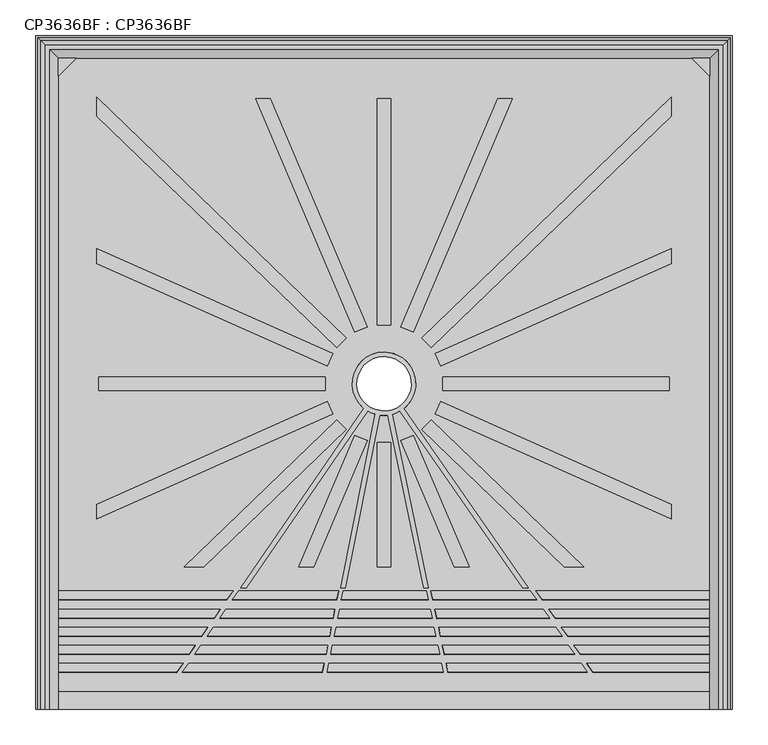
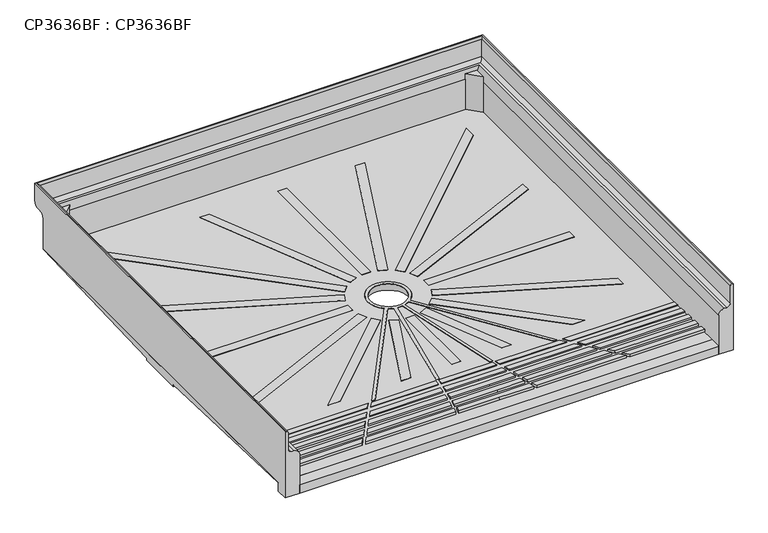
"""IFC4 building model written with IfcOpenShell, lengths in millimetres: flow terminal geometry, CP3636BF : CP3636BF."""

from ifc_helpers import new_model, si_unit, point, frame, frame_2d, origin, origin_with_axes, place, context, project, spatial, polyline, circle_curve, ellipse_curve, trimmed, segment, composite_curve, outline, extrude, source, transform, mapped, element, save
from ifc_brep_helpers import plane_surface, cylinder_surface, revolved_surface, advanced_brep


def cp3636bf_cp3636bf_12177f3f(model_context):
    return source(origin(), model_context, "Body", "SolidModel", [
        extrude(outline(polyline([(9.525, 66.8448939), (-9.525, 66.8448939), (-9.525, 384.3448939), (9.525, 384.3448939), (9.525, 66.8448939)])), frame((0.0, 0.0, 19.05), z_axis=(0.0, 0.0, 1.0), x_axis=(1.0, 0.0, 0.0)), (0.0, 0.0, 1.0), 0.5291667),
        extrude(outline(polyline([(41.0890462, 56.5473498), (23.5534288, 63.9907778), (159.5356833, 384.3448939), (180.2308485, 384.3448939), (41.0890462, 56.5473498)])), frame((0.0, 0.0, 19.05), z_axis=(0.0, 0.0, 1.0), x_axis=(1.0, 0.0, 0.0)), (0.0, 0.0, 1.0), 0.5291667),
        extrude(outline(polyline([(66.131097, 34.7212892), (52.9007702, 48.427527), (403.225, 386.587721), (403.225, 360.1105429), (66.131097, 34.7212892)])), frame((0.0, 0.0, 19.05), z_axis=(0.0, 0.0, 1.0), x_axis=(1.0, 0.0, 0.0)), (0.0, 0.0, 1.0), 0.5291667),
        extrude(outline(polyline([(79.4425498, 9.0686915), (71.6942168, 26.4717324), (403.225, 174.0787472), (403.225, 153.2259261), (79.4425498, 9.0686915)])), frame((0.0, 0.0, 19.05), z_axis=(0.0, 0.0, 1.0), x_axis=(1.0, 0.0, 0.0)), (0.0, 0.0, 1.0), 0.5291667),
        extrude(outline(polyline([(82.714366, -25.4478848), (82.725394, -6.3978879), (400.2253408, -6.5816879), (400.2143128, -25.6316847), (82.714366, -25.4478848)])), frame((0.0, 0.0, 19.05), z_axis=(0.0, 0.0, 1.0), x_axis=(1.0, 0.0, 0.0)), (0.0, 0.0, 1.0), 0.5291667),
        extrude(outline(polyline([(-41.0890462, 56.5473498), (-180.2308485, 384.3448939), (-159.5356833, 384.3448939), (-23.5534288, 63.9907778), (-41.0890462, 56.5473498)])), frame((0.0, 0.0, 19.05), z_axis=(0.0, 0.0, 1.0), x_axis=(1.0, 0.0, 0.0)), (0.0, 0.0, 1.0), 0.5291667),
        extrude(outline(polyline([(-66.131097, 34.7212892), (-403.225, 360.1105429), (-403.225, 386.587721), (-52.9007702, 48.427527), (-66.131097, 34.7212892)])), frame((0.0, 0.0, 19.05), z_axis=(0.0, 0.0, 1.0), x_axis=(1.0, 0.0, 0.0)), (0.0, 0.0, 1.0), 0.5291667),
        extrude(outline(polyline([(-79.4425498, 9.0686915), (-403.225, 153.2259261), (-403.225, 174.0787472), (-71.6942168, 26.4717324), (-79.4425498, 9.0686915)])), frame((0.0, 0.0, 19.05), z_axis=(0.0, 0.0, 1.0), x_axis=(1.0, 0.0, 0.0)), (0.0, 0.0, 1.0), 0.5291667),
        extrude(outline(polyline([(-82.714366, -25.4478848), (-400.2143128, -25.6316847), (-400.2253408, -6.5816879), (-82.725394, -6.3978879), (-82.714366, -25.4478848)])), frame((0.0, 0.0, 19.05), z_axis=(0.0, 0.0, 1.0), x_axis=(1.0, 0.0, 0.0)), (0.0, 0.0, 1.0), 0.5291667),
        extrude(outline(polyline([(9.525, -98.5948939), (9.525, -273.2198939), (-9.525, -273.2198939), (-9.525, -98.5948939), (9.525, -98.5948939)])), frame((0.0, 0.0, 19.05), z_axis=(0.0, 0.0, 1.0), x_axis=(1.0, 0.0, 0.0)), (0.0, 0.0, 1.0), 0.5291667),
        extrude(outline(polyline([(41.0890462, -88.2973498), (119.5840091, -273.2198939), (98.8888439, -273.2198939), (23.5534288, -95.7407778), (41.0890462, -88.2973498)])), frame((0.0, 0.0, 19.05), z_axis=(0.0, 0.0, 1.0), x_axis=(1.0, 0.0, 0.0)), (0.0, 0.0, 1.0), 0.5291667),
        extrude(outline(polyline([(66.131097, -66.4712892), (280.3167018, -273.2198939), (252.8871071, -273.2198939), (52.9007702, -80.177527), (66.131097, -66.4712892)])), frame((0.0, 0.0, 19.05), z_axis=(0.0, 0.0, 1.0), x_axis=(1.0, 0.0, 0.0)), (0.0, 0.0, 1.0), 0.5291667),
        extrude(outline(polyline([(79.4425498, -40.8186915), (403.225, -184.9759261), (403.225, -205.8287472), (71.6942168, -58.2217324), (79.4425498, -40.8186915)])), frame((0.0, 0.0, 19.05), z_axis=(0.0, 0.0, 1.0), x_axis=(1.0, 0.0, 0.0)), (0.0, 0.0, 1.0), 0.5291667),
        extrude(outline(polyline([(-41.0890462, -88.2973498), (-23.5534288, -95.7407778), (-98.8888439, -273.2198939), (-119.5840091, -273.2198939), (-41.0890462, -88.2973498)])), frame((0.0, 0.0, 19.05), z_axis=(0.0, 0.0, 1.0), x_axis=(1.0, 0.0, 0.0)), (0.0, 0.0, 1.0), 0.5291667),
        extrude(outline(polyline([(-66.131097, -66.4712892), (-52.9007702, -80.177527), (-252.8871071, -273.2198939), (-280.3167018, -273.2198939), (-66.131097, -66.4712892)])), frame((0.0, 0.0, 19.05), z_axis=(0.0, 0.0, 1.0), x_axis=(1.0, 0.0, 0.0)), (0.0, 0.0, 1.0), 0.5291667),
        extrude(outline(polyline([(-79.4425498, -40.8186915), (-71.6942168, -58.2217324), (-403.225, -205.8287472), (-403.225, -184.9759261), (-79.4425498, -40.8186915)])), frame((0.0, 0.0, 19.05), z_axis=(0.0, 0.0, 1.0), x_axis=(1.0, 0.0, 0.0)), (0.0, 0.0, 1.0), 0.5291667),
        extrude(outline(composite_curve([segment(polyline([(-201.0283949, -302.1907183), (-28.1469088, -50.27782)]), True, "CONTINUOUS"), segment(trimmed(circle_curve(frame_2d((0.0, -15.875)), 44.45), [point((-28.1469088, -50.27782))], [point((27.4553796, -50.8321828))], False, "CARTESIAN"), True, "CONTINUOUS"), segment(polyline([(27.4553796, -50.8321828), (202.2323668, -302.1907183), (194.5273745, -302.1907183), (22.2144506, -54.375918)]), True, "CONTINUOUS"), segment(trimmed(circle_curve(frame_2d((0.0, -15.875)), 44.45), [point((22.2144506, -54.375918))], [point((11.6048238, -58.7833974))], False, "CARTESIAN"), True, "CONTINUOUS"), segment(polyline([(11.6048238, -58.7833974), (62.4545453, -302.1907183), (55.9919523, -302.1907183), (5.3956174, -59.9963079)]), True, "CONTINUOUS"), segment(trimmed(circle_curve(frame_2d((0.0, -15.875)), 44.45), [point((5.3956174, -59.9963079))], [point((-6.0833499, -59.9067539))], False, "CARTESIAN"), True, "CONTINUOUS"), segment(polyline([(-6.0833499, -59.9067539), (-54.0575775, -302.1907183), (-60.5064236, -302.1907183), (-12.2728764, -58.5971138)]), True, "CONTINUOUS"), segment(trimmed(circle_curve(frame_2d((0.0, -15.875)), 44.45), [point((-12.2728764, -58.5971138))], [point((-22.9776777, -53.925346))], False, "CARTESIAN"), True, "CONTINUOUS"), segment(polyline([(-22.9776777, -53.925346), (-193.3559584, -302.1907183), (-201.0283949, -302.1907183)]), True, "CONTINUOUS")], self_intersect=False), holes=[composite_curve([segment(trimmed(circle_curve(frame_2d((0.0, -15.875)), 38.1), [point((-24.5388687, -45.0203928))], [point((23.8230803, -45.6083289))], True, "CARTESIAN"), True, "CONTINUOUS"), segment(trimmed(circle_curve(frame_2d((0.0, -15.875)), 38.1), [point((23.8230803, -45.6083289))], [point((-24.5388687, -45.0203928))], True, "CARTESIAN"), True, "CONTINUOUS")], self_intersect=False)]), frame((0.0, 0.0, 19.05), z_axis=(0.0, 0.0, 1.0), x_axis=(1.0, 0.0, 0.0)), (0.0, 0.0, 1.0), 0.5291667),
        advanced_brep(
        [(482.6, -447.675, 19.05), (482.6, -50.8, 4.9609375), (482.6, -50.8, 0.0), (482.6, 50.8, 0.0), (482.6, 50.8, 5.000926), (482.6, 442.11875, 18.6660779), (482.6, 442.11875, 19.05), (-488.95, -50.8, 4.9609375), (-488.95, -447.675, 19.05), (-488.95, 442.11875, 19.05), (-488.95, 442.11875, 18.6660779), (-488.95, 50.8, 5.000926), (-488.95, 50.8, 0.0), (-488.95, -50.8, 0.0), (44.45, -15.875, 19.05), (-44.45, -15.875, 19.05), (27.4963066, -50.8, 0.0), (44.45, -15.875, 0.0), (-44.45, -15.875, 0.0), (-27.4963066, -50.8, 0.0), (-27.4963066, -50.8, 4.9609375), (27.4963066, -50.8, 4.9609375)],
        [
            (0, 1),
            (1, 2),
            (2, 3),
            (3, 4),
            (4, 5),
            (5, 6),
            (6, 0),
            (7, 8),
            (8, 9),
            (9, 10),
            (10, 11),
            (11, 12),
            (12, 13),
            (13, 7),
            (8, 0),
            (6, 9),
            (14, 15, circle_curve(frame((0.0, -15.875, 19.05), z_axis=(0.0, 0.0, -1.0), x_axis=(1.0, 0.0, 0.0)), 44.45)),
            (15, 14, circle_curve(frame((0.0, -15.875, 19.05), z_axis=(0.0, 0.0, -1.0), x_axis=(1.0, 0.0, 0.0)), 44.45)),
            (2, 16),
            (16, 17, circle_curve(frame((0.0, -15.875, 0.0), z_axis=(0.0, 0.0, 1.0), x_axis=(1.0, 0.0, 0.0)), 44.45)),
            (17, 18, circle_curve(frame((0.0, -15.875, 0.0), z_axis=(0.0, 0.0, 1.0), x_axis=(1.0, 0.0, 0.0)), 44.45)),
            (18, 19, circle_curve(frame((0.0, -15.875, 0.0), z_axis=(0.0, 0.0, 1.0), x_axis=(1.0, 0.0, 0.0)), 44.45)),
            (19, 13),
            (12, 3),
            (7, 20),
            (20, 21, ellipse_curve(frame((0.0, -15.875, 3.7211), z_axis=(0.0, 0.0354776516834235, 0.9993704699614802), x_axis=(0.0, -0.9993704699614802, 0.03547765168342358)), 44.4780002, 44.45)),
            (21, 1),
            (21, 16),
            (19, 20),
            (11, 4),
            (10, 5),
            (18, 15),
            (14, 17),
        ],
        [
            plane_surface(frame((482.6, -447.675, 19.05), z_axis=(1.0, 0.0, 0.0), x_axis=(0.0, -1.0, 0.0))),
            plane_surface(frame((-488.95, -447.675, 19.05), z_axis=(-1.0, 0.0, 0.0), x_axis=(0.0, 1.0, 0.0))),
            plane_surface(frame((482.6, 473.075, 19.05), z_axis=(0.0, 0.0, 1.0), x_axis=(-1.0, 0.0, 0.0))),
            plane_surface(frame((482.6, -447.675, 0.0), z_axis=(0.0, 0.0, -1.0), x_axis=(-1.0, 0.0, 0.0))),
            plane_surface(frame((-488.95, -447.675, 19.05), z_axis=(0.0, -0.0354776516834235, -0.9993704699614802), x_axis=(1.0, 0.0, 0.0))),
            plane_surface(frame((-488.95, -50.8, 4.9609375), z_axis=(0.0, -1.0, 0.0), x_axis=(1.0, 0.0, 0.0))),
            plane_surface(frame((-488.95, 50.8, 0.0), z_axis=(0.0, 1.0, 0.0), x_axis=(1.0, 0.0, 0.0))),
            plane_surface(frame((-488.95, 50.8, 5.000926), z_axis=(0.0, 0.034899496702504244, -0.9993908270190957), x_axis=(1.0, 0.0, 0.0))),
            plane_surface(frame((-488.95, 442.11875, 18.6660779), z_axis=(0.0, 1.0, 0.0), x_axis=(1.0, 0.0, 0.0))),
            revolved_surface(polyline([(44.45, -15.875, 19.049999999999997), (44.45, -15.875, 0.0)]), (0.0, -15.875, -6.35), (0.0, 0.0, 1.0)),
        ],
        [
            (0, [[1, 2, 3, 4, 5, 6, 7]]),
            (1, [[8, 9, 10, 11, 12, 13, 14]]),
            (2, [[15, -7, 16, -9], [17, 18]]),
            (3, [[-3, 19, 20, 21, 22, 23, -13, 24]]),
            (4, [[-1, -15, -8, 25, 26, 27]]),
            (5, [[-2, -27, 28, -19]]),
            (5, [[-14, -23, 29, -25]]),
            (6, [[30, -4, -24, -12]]),
            (7, [[-30, -11, 31, -5]]),
            (8, [[-31, -10, -16, -6]]),
            (9, [[32, -17, 33, -20, -28, -26, -29, -22]]),
            (9, [[-32, -21, -33, -18]]),
        ],
    ),
        extrude(outline(polyline([(457.2, -473.075), (-457.2, -473.075), (-457.2, -447.675), (457.2, -447.675), (457.2, -473.075)])), origin_with_axes(), (0.0, 0.0, 1.0), 19.05),
        extrude(outline(polyline([(522.4674598, -165.9182294), (512.000945, -173.1114251), (393.0287375, 0.0), (408.4388335, 0.0), (522.4674598, -165.9182294)])), frame((-24.5388687, -34.9178332, -0.0634178), z_axis=(0.0, 0.05346929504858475, 0.9985694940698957), x_axis=(-0.5663933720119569, -0.8229561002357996, 0.04406591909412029)), (0.0, 0.0, 1.0), 5.5944671),
        extrude(outline(polyline([(-5.9091544, 580.4776466), (4.5573604, 587.6708423), (117.4941956, 423.3412321), (112.0364867, 408.8599348), (-5.9091544, 580.4776466)])), frame((-24.5388687, -34.9178332, -0.0634178), z_axis=(0.0, 0.05346929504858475, 0.9985694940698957), x_axis=(-0.5663933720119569, -0.8229561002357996, 0.04406591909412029)), (0.0, 0.0, 1.0), 5.5944671),
        extrude(outline(polyline([(346.0436671, 0.0), (480.0887534, -195.0433333), (469.6222385, -202.2365291), (330.633571, 0.0), (346.0436671, 0.0)])), frame((-24.5388687, -34.9178332, -0.0634178), z_axis=(0.0, 0.05346929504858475, 0.9985694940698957), x_axis=(-0.5663933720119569, -0.8229561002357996, 0.04406591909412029)), (0.0, 0.0, 1.0), 5.5944671),
        extrude(outline(polyline([(89.9383336, 350.2254557), (-48.2878609, 551.3525425), (-37.821346, 558.5457384), (95.3960426, 364.706753), (89.9383336, 350.2254557)])), frame((-24.5388687, -34.9178332, -0.0634178), z_axis=(0.0, 0.05346929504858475, 0.9985694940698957), x_axis=(-0.5663933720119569, -0.8229561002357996, 0.04406591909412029)), (0.0, 0.0, 1.0), 5.5944671),
        extrude(outline(polyline([(377.6186414, -1e-07), (501.5344301, -180.304621), (491.0679152, -187.4978168), (362.2085453, -1e-07), (377.6186414, -1e-07)])), frame((-24.5388687, -34.9178332, -0.0634178), z_axis=(0.0, 0.05346929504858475, 0.9985694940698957), x_axis=(-0.5663933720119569, -0.8229561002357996, 0.04406591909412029)), (0.0, 0.0, 1.0), 5.5944671),
        extrude(outline(polyline([(101.1210686, 379.8973401), (-26.8421842, 566.0912549), (-16.3756693, 573.2844507), (106.5787776, 394.3786375), (101.1210686, 379.8973401)])), frame((-24.5388687, -34.9178332, -0.0634178), z_axis=(0.0, 0.05346929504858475, 0.9985694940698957), x_axis=(-0.5663933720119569, -0.8229561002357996, 0.04406591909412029)), (0.0, 0.0, 1.0), 5.5944671),
        extrude(outline(polyline([(469.9588265, -1e-07), (564.2517497, -137.2016429), (553.7852348, -144.3948387), (454.5487304, -1e-07), (469.9588265, -1e-07)])), frame((-24.5388687, -34.9178332, -0.0634178), z_axis=(0.0, 0.05346929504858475, 0.9985694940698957), x_axis=(-0.5663933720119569, -0.8229561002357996, 0.04406591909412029)), (0.0, 0.0, 1.0), 5.5944671),
        extrude(outline(polyline([(133.8246842, 466.671989), (35.8751354, 609.194233), (46.3416503, 616.3874288), (139.2823933, 481.1532863), (133.8246842, 466.671989)])), frame((-24.5388687, -34.9178332, -0.0634178), z_axis=(0.0, 0.05346929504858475, 0.9985694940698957), x_axis=(-0.5663933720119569, -0.8229561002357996, 0.04406591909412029)), (0.0, 0.0, 1.0), 5.5944671),
        extrude(outline(polyline([(267.414806, 137.9303591), (239.624672, 178.3666073), (195.4574651, 242.6324412), (204.4191116, 252.0153074), (238.1025677, 203.0039356), (279.3076735, 143.0481296), (267.414806, 137.9303591)])), frame((-24.5388687, -34.9178332, -0.0634178), z_axis=(0.0, 0.05346929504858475, 0.9985694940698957), x_axis=(-0.5663933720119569, -0.8229561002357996, 0.04406591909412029)), (0.0, 0.0, 1.0), 5.5944671),
        extrude(outline(polyline([(338.6790981, 168.5969993), (294.8301851, 232.3996971), (249.157331, 298.8563347), (258.1189774, 308.2392009), (300.3626551, 246.772213), (350.5719656, 173.7147697), (338.6790981, 168.5969993)])), frame((-24.5388687, -34.9178332, -0.0634178), z_axis=(0.0, 0.05346929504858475, 0.9985694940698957), x_axis=(-0.5663933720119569, -0.8229561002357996, 0.04406591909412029)), (0.0, 0.0, 1.0), 5.5944671),
        extrude(outline(polyline([(222.3424045, 270.7810398), (254.2511959, 224.3519074), (303.0934085, 153.2836705), (291.200541, 148.1659001), (249.4432871, 208.9251135), (213.3807581, 261.3981736), (222.3424045, 270.7810398)])), frame((-24.5388687, -34.9178332, -0.0634178), z_axis=(0.0, 0.05346929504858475, 0.9985694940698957), x_axis=(-0.5663933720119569, -0.8229561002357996, 0.04406591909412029)), (0.0, 0.0, 1.0), 5.5944671),
        extrude(outline(polyline([(439.2590257, 0.0), (543.4004896, -151.5318377), (532.9339747, -158.7250335), (423.8489296, 0.0), (439.2590257, 0.0)])), frame((-24.5388687, -34.9178332, -0.0634178), z_axis=(0.0, 0.05346929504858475, 0.9985694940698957), x_axis=(-0.5663933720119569, -0.8229561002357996, 0.04406591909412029)), (0.0, 0.0, 1.0), 5.5944671),
        extrude(outline(polyline([(122.9519046, 437.8225294), (15.0238753, 594.8640382), (25.4903903, 602.057234), (128.4096137, 452.3038268), (122.9519046, 437.8225294)])), frame((-24.5388687, -34.9178332, -0.0634178), z_axis=(0.0, 0.05346929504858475, 0.9985694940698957), x_axis=(-0.5663933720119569, -0.8229561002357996, 0.04406591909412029)), (0.0, 0.0, 1.0), 5.5944671),
        extrude(outline(polyline([(240.2656974, 289.5467722), (273.1870707, 241.6442749), (326.8791436, 163.5192114), (314.9862761, 158.401441), (278.6977961, 211.2032728), (231.3040509, 280.163906), (240.2656974, 289.5467722)])), frame((-24.5388687, -34.9178332, -0.0634178), z_axis=(0.0, 0.05346929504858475, 0.9985694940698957), x_axis=(-0.5663933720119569, -0.8229561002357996, 0.04406591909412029)), (0.0, 0.0, 1.0), 5.5944671),
        extrude(outline(polyline([(450.2031133, 6.3231235), (342.3316817, 163.2822794), (354.2245493, 168.4000498), (465.6132093, 6.3231236), (450.2031133, 6.3231235)])), frame((-24.5388687, -34.9178332, -0.0634178), z_axis=(0.0, 0.05346929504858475, 0.9985694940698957), x_axis=(-0.5663933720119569, -0.8229561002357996, 0.04406591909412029)), (0.0, 0.0, 1.0), 5.5944671),
        extrude(outline(polyline([(326.2879539, 6.3231236), (246.6991453, 122.1294313), (258.5920129, 127.2472018), (341.6980499, 6.3231237), (326.2879539, 6.3231236)])), frame((-24.5388687, -34.9178332, -0.0634178), z_axis=(0.0, 0.05346929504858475, 0.9985694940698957), x_axis=(-0.5663933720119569, -0.8229561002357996, 0.04406591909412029)), (0.0, 0.0, 1.0), 5.5944671),
        extrude(outline(polyline([(357.8629281, 6.3231236), (271.0673897, 132.6156391), (282.9602572, 137.7334096), (373.2730243, 6.3231236), (357.8629281, 6.3231236)])), frame((-24.5388687, -34.9178332, -0.0634178), z_axis=(0.0, 0.05346929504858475, 0.9985694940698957), x_axis=(-0.5663933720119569, -0.8229561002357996, 0.04406591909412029)), (0.0, 0.0, 1.0), 5.5944671),
        extrude(outline(polyline([(388.6831204, 6.3231236), (294.8531247, 142.8511801), (306.7459922, 147.9689506), (404.0932164, 6.3231236), (388.6831204, 6.3231236)])), frame((-24.5388687, -34.9178332, -0.0634178), z_axis=(0.0, 0.05346929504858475, 0.9985694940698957), x_axis=(-0.5663933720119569, -0.8229561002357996, 0.04406591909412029)), (0.0, 0.0, 1.0), 5.5944671),
        extrude(outline(polyline([(419.5033125, 6.3231236), (318.6388598, 153.086721), (330.5317273, 158.2044915), (434.9134086, 6.3231236), (419.5033125, 6.3231236)])), frame((-24.5388687, -34.9178332, -0.0634178), z_axis=(0.0, 0.05346929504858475, 0.9985694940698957), x_axis=(-0.5663933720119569, -0.8229561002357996, 0.04406591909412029)), (0.0, 0.0, 1.0), 5.5944671),
        extrude(outline(polyline([(245.4969611, 304.1823841), (138.1887409, 460.3220348), (143.6464499, 474.8033322), (254.4586076, 313.5652502), (245.4969611, 304.1823841)])), frame((-24.5388687, -34.9178332, -0.0634178), z_axis=(0.0, 0.05346929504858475, 0.9985694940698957), x_axis=(-0.5663933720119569, -0.8229561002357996, 0.04406591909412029)), (0.0, 0.0, 1.0), 5.5944671),
        extrude(outline(polyline([(243.0465616, 127.4441513), (177.0952333, 223.4071386), (186.0568798, 232.7900049), (254.9394292, 132.5619217), (243.0465616, 127.4441513)])), frame((-24.5388687, -34.9178332, -0.0634178), z_axis=(0.0, 0.05346929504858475, 0.9985694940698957), x_axis=(-0.5663933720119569, -0.8229561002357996, 0.04406591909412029)), (0.0, 0.0, 1.0), 5.5944671),
        extrude(outline(polyline([(99.7600992, 358.3567989), (182.3965099, 238.1160542), (173.4348635, 228.7331879), (94.3023902, 343.8755015), (99.7600992, 358.3567989)])), frame((-24.5388687, -34.9178332, -0.0634178), z_axis=(0.0, 0.05346929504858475, 0.9985694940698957), x_axis=(-0.5663933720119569, -0.8229561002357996, 0.04406591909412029)), (0.0, 0.0, 1.0), 5.5944671),
        extrude(outline(polyline([(110.9428343, 388.0286833), (200.7587417, 257.3413567), (191.7970953, 247.9584904), (105.4851252, 373.547386), (110.9428343, 388.0286833)])), frame((-24.5388687, -34.9178332, -0.0634178), z_axis=(0.0, 0.05346929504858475, 0.9985694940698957), x_axis=(-0.5663933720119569, -0.8229561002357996, 0.04406591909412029)), (0.0, 0.0, 1.0), 5.5944671),
        extrude(outline(polyline([(121.8582522, 416.991278), (218.6820346, 276.107089), (209.7203882, 266.7242228), (116.4005433, 402.5099807), (121.8582522, 416.991278)])), frame((-24.5388687, -34.9178332, -0.0634178), z_axis=(0.0, 0.05346929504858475, 0.9985694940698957), x_axis=(-0.5663933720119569, -0.8229561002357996, 0.04406591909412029)), (0.0, 0.0, 1.0), 5.5944671),
        extrude(outline(polyline([(132.7736703, 445.9538726), (236.6053275, 294.8728215), (227.6436811, 285.4899553), (127.3159613, 431.4725753), (132.7736703, 445.9538726)])), frame((-24.5388687, -34.9178332, -0.0634178), z_axis=(0.0, 0.05346929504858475, 0.9985694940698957), x_axis=(-0.5663933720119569, -0.8229561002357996, 0.04406591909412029)), (0.0, 0.0, 1.0), 5.5944671),
        advanced_brep(
        [(-488.95, -473.075, 152.4), (-488.95, -473.075, 0.0), (-457.2, -473.075, 0.0), (-457.2, -473.075, 88.9), (-469.9, -473.075, 101.6), (-475.4653473, -473.075, 101.6), (-482.6, -473.075, 108.7346527), (-482.6, -473.075, 148.247358), (-486.752642, -473.075, 152.4), (-488.95, 473.075, 152.4), (-488.95, 473.075, 113.50625), (-488.95, 460.375, 100.80625), (-488.95, 454.81875, 100.80625), (-488.95, 442.11875, 88.10625), (-488.95, 442.11875, 18.6660779), (-488.95, 50.8, 5.000926), (-488.95, 50.8, 0.0), (-488.95, -50.8, 0.0), (-488.95, -50.8, 4.9609375), (-488.95, -447.675, 19.05), (-488.95, -447.675, 0.0), (-457.2, -447.675, 0.0), (488.95, -473.075, 0.0), (457.2, -473.075, 0.0), (457.2, -447.675, 0.0), (488.95, -447.675, 0.0), (-457.2, -50.8, 0.0), (-457.2, 50.8, 0.0), (488.95, -50.8, 0.0), (457.2, -50.8, 0.0), (457.2, 50.8, 0.0), (488.95, 50.8, 0.0), (-457.2, -447.675, 19.05), (-457.2, -50.8, 4.9609375), (-457.2, 50.8, 5.000926), (-457.2, 421.1781141, 17.9348148), (-457.2, 415.869032, 17.9348148), (-457.2, 415.869032, 88.9), (-469.9, 454.025, 101.6), (469.9, 454.025, 101.6), (469.9, -473.075, 101.6), (475.4653473, -473.075, 101.6), (475.4653473, 459.5903473, 101.6), (-475.4653473, 459.5903473, 101.6), (-482.6, 466.725, 108.7346527), (-482.6, 466.725, 148.247358), (-486.752642, 470.877642, 152.4), (486.752642, 470.877642, 152.4), (486.752642, -473.075, 152.4), (488.95, -473.075, 152.4), (488.95, 473.075, 152.4), (488.95, 473.075, 113.50625), (431.744032, 441.325, 88.9), (-431.744032, 441.325, 88.9), (-431.744032, 441.325, 18.6383596), (457.2, 441.325, 18.6383596), (457.2, 441.325, 19.9666898), (431.744032, 441.325, 19.9666898), (482.6, 466.725, 108.7346527), (482.6, 466.725, 148.247358), (482.6, -473.075, 148.247358), (482.6, -473.075, 108.7346527), (457.2, -473.075, 88.9), (488.95, -447.675, 19.05), (488.95, -50.8, 4.9609375), (488.95, 50.8, 5.000926), (488.95, 442.11875, 18.6660779), (488.95, 442.11875, 88.10625), (488.95, 454.81875, 100.80625), (488.95, 460.375, 100.80625), (457.2, 415.869032, 88.9), (457.2, 415.869032, 19.9666898), (457.2, 50.8, 5.000926), (457.2, -50.8, 4.9609375), (457.2, -447.675, 19.05), (-457.2, 441.325, 88.9), (457.2, 441.325, 88.9), (-431.744032, 441.325, 101.6), (-457.2, 441.325, 101.6), (-457.2, 415.869032, 101.6), (-451.8909179, 421.1781141, 17.9348148), (431.744032, 441.325, 101.6), (457.2, 415.869032, 101.6), (457.2, 441.325, 101.6)],
        [
            (0, 1),
            (1, 2),
            (2, 3),
            (3, 4, circle_curve(frame((-469.9, -473.075, 88.9), z_axis=(0.0, -1.0, 0.0), x_axis=(1.0, 0.0, 0.0)), 12.7)),
            (4, 5),
            (5, 6, circle_curve(frame((-475.4653473, -473.075, 108.7346527), z_axis=(0.0, 1.0, 0.0), x_axis=(1.0, 0.0, 0.0)), 7.1346527)),
            (6, 7),
            (7, 8, circle_curve(frame((-486.752642, -473.075, 148.247358), z_axis=(0.0, -1.0, 0.0), x_axis=(1.0, 0.0, 0.0)), 4.152642)),
            (8, 0),
            (0, 9),
            (9, 10),
            (10, 11, circle_curve(frame((-488.95, 460.375, 113.50625), z_axis=(-1.0, 0.0, 0.0), x_axis=(0.0, 1.0, 0.0)), 12.7)),
            (11, 12),
            (12, 13, circle_curve(frame((-488.95, 454.81875, 88.10625), z_axis=(1.0, 0.0, 0.0), x_axis=(0.0, -1.0, 0.0)), 12.7)),
            (13, 14),
            (14, 15),
            (15, 16),
            (16, 17),
            (17, 18),
            (18, 19),
            (19, 20),
            (20, 1),
            (20, 21),
            (21, 2),
            (22, 23),
            (23, 24),
            (24, 25),
            (25, 22),
            (26, 17),
            (16, 27),
            (27, 26),
            (28, 29),
            (29, 30),
            (30, 31),
            (31, 28),
            (21, 32),
            (32, 33),
            (33, 26),
            (27, 34),
            (34, 35),
            (35, 36),
            (36, 37),
            (37, 3),
            (4, 38),
            (38, 39),
            (39, 40),
            (40, 41),
            (41, 42),
            (42, 43),
            (43, 5),
            (6, 44),
            (44, 45),
            (45, 7),
            (8, 46),
            (46, 47),
            (47, 48),
            (48, 49),
            (49, 50),
            (50, 9),
            (50, 51),
            (51, 10),
            (52, 53),
            (53, 54),
            (54, 55),
            (55, 56),
            (56, 57),
            (57, 52),
            (44, 58),
            (58, 59),
            (59, 45),
            (22, 49),
            (48, 60, circle_curve(frame((486.752642, -473.075, 148.247358), z_axis=(0.0, -1.0, 0.0), x_axis=(-1.0, 0.0, 0.0)), 4.152642)),
            (60, 61),
            (61, 41, circle_curve(frame((475.4653473, -473.075, 108.7346527), z_axis=(0.0, 1.0, 0.0), x_axis=(-1.0, 0.0, 0.0)), 7.1346527)),
            (40, 62, circle_curve(frame((469.9, -473.075, 88.9), z_axis=(0.0, -1.0, 0.0), x_axis=(-1.0, 0.0, 0.0)), 12.7)),
            (62, 23),
            (25, 63),
            (63, 64),
            (64, 28),
            (31, 65),
            (65, 66),
            (66, 67),
            (67, 68, circle_curve(frame((488.95, 454.81875, 88.10625), z_axis=(-1.0, 0.0, 0.0), x_axis=(0.0, -1.0, 0.0)), 12.7)),
            (68, 69),
            (69, 51, circle_curve(frame((488.95, 460.375, 113.50625), z_axis=(1.0, 0.0, 0.0), x_axis=(0.0, 1.0, 0.0)), 12.7)),
            (62, 70),
            (70, 71),
            (71, 56),
            (55, 72),
            (72, 30),
            (29, 73),
            (73, 74),
            (74, 24),
            (58, 61),
            (60, 59),
            (37, 75),
            (75, 38, ellipse_curve(frame((-469.9, 454.025, 88.9), z_axis=(-0.7071067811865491, -0.7071067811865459, 0.0), x_axis=(0.7071067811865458, -0.7071067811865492, 0.0)), 17.9605122, 12.7)),
            (43, 44, ellipse_curve(frame((-475.4653473, 459.5903473, 108.7346527), z_axis=(0.7071067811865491, 0.7071067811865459, 0.0), x_axis=(-0.7071067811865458, 0.7071067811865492, 0.0)), 10.0899226, 7.1346527)),
            (45, 46, ellipse_curve(frame((-486.752642, 470.877642, 148.247358), z_axis=(-0.7071067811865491, -0.7071067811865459, 0.0), x_axis=(0.7071067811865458, -0.7071067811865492, 0.0)), 5.8727227, 4.152642)),
            (75, 53),
            (52, 76),
            (76, 39, ellipse_curve(frame((469.9, 454.025, 88.9), z_axis=(-0.7071067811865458, 0.7071067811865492, 0.0), x_axis=(-0.7071067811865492, -0.7071067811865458, 0.0)), 17.9605122, 12.7)),
            (42, 58, ellipse_curve(frame((475.4653473, 459.5903473, 108.7346527), z_axis=(0.7071067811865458, -0.7071067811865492, 0.0), x_axis=(0.7071067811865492, 0.7071067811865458, 0.0)), 10.0899226, 7.1346527)),
            (59, 47, ellipse_curve(frame((486.752642, 470.877642, 148.247358), z_axis=(-0.7071067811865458, 0.7071067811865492, 0.0), x_axis=(-0.7071067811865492, -0.7071067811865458, 0.0)), 5.8727227, 4.152642)),
            (76, 70),
            (77, 78),
            (78, 79),
            (79, 77),
            (35, 80),
            (80, 36),
            (79, 37),
            (80, 54),
            (53, 77),
            (81, 82),
            (82, 83),
            (83, 81),
            (71, 57),
            (81, 52),
            (70, 82),
            (32, 19),
            (18, 33),
            (63, 74),
            (73, 64),
            (15, 34),
            (72, 65),
            (14, 66),
            (13, 67),
            (12, 68),
            (11, 69),
            (75, 78),
            (83, 76),
        ],
        [
            plane_surface(frame((-488.95, -473.075, 0.0), z_axis=(0.0, -1.0, 0.0), x_axis=(0.0, 0.0, 1.0))),
            plane_surface(frame((-488.95, -473.075, 152.4), z_axis=(-1.0, 0.0, 0.0), x_axis=(0.0, 1.0, 0.0))),
            plane_surface(frame((-488.95, -473.075, 0.0), z_axis=(0.0, 0.0, -1.0), x_axis=(0.0, 1.0, 0.0))),
            plane_surface(frame((-457.2, -473.075, 0.0), z_axis=(1.0, 0.0, 0.0), x_axis=(0.0, 1.0, 0.0))),
            plane_surface(frame((-469.9, -473.075, 101.6), z_axis=(0.0, 0.0, 1.0), x_axis=(0.0, 1.0, 0.0))),
            plane_surface(frame((-482.6, -473.075, 108.7346527), z_axis=(1.0, 0.0, 0.0), x_axis=(0.0, 1.0, 0.0))),
            plane_surface(frame((-486.752642, -473.075, 152.4), z_axis=(0.0, 0.0, 1.0), x_axis=(0.0, 1.0, 0.0))),
            plane_surface(frame((-488.95, 473.075, 152.4), z_axis=(0.0, 1.0, 0.0), x_axis=(1.0, 0.0, 0.0))),
            plane_surface(frame((-457.2, 441.325, 0.0), z_axis=(0.0, -1.0, 0.0), x_axis=(1.0, 0.0, 0.0))),
            plane_surface(frame((-482.6, 466.725, 108.7346527), z_axis=(0.0, -1.0, 0.0), x_axis=(1.0, 0.0, 0.0))),
            plane_surface(frame((488.95, -473.075, 0.0), z_axis=(0.0, -1.0, 0.0), x_axis=(0.0, 0.0, 1.0))),
            plane_surface(frame((488.95, 473.075, 152.4), z_axis=(1.0, 0.0, 0.0), x_axis=(0.0, -1.0, 0.0))),
            plane_surface(frame((457.2, 441.325, 0.0), z_axis=(-1.0, 0.0, 0.0), x_axis=(0.0, -1.0, 0.0))),
            plane_surface(frame((482.6, 466.725, 108.7346527), z_axis=(-1.0, 0.0, 0.0), x_axis=(0.0, -1.0, 0.0))),
            cylinder_surface(frame((-469.9, -473.075, 88.9), z_axis=(0.0, -1.0, 0.0), x_axis=(1.0, 0.0, 0.0)), 12.7),
            revolved_surface(polyline([(-468.3306946, 466.72499999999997, 108.7346527), (-468.3306946, -473.075, 108.7346527)]), (-475.4653473, -473.075, 108.7346527), (0.0, 1.0, 0.0)),
            cylinder_surface(frame((-486.752642, -473.075, 148.247358), z_axis=(0.0, -1.0, 0.0), x_axis=(1.0, 0.0, 0.0)), 4.152642),
            cylinder_surface(frame((-488.95, 454.025, 88.9), z_axis=(-1.0, 0.0, 0.0), x_axis=(0.0, -1.0, 0.0)), 12.7),
            revolved_surface(polyline([(482.59999999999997, 452.4556946, 108.7346527), (-482.6, 452.4556946, 108.7346527)]), (-488.95, 459.5903473, 108.7346527), (1.0, 0.0, 0.0)),
            cylinder_surface(frame((-488.95, 470.877642, 148.247358), z_axis=(-1.0, 0.0, 0.0), x_axis=(0.0, -1.0, 0.0)), 4.152642),
            cylinder_surface(frame((469.9, 473.075, 88.9), z_axis=(0.0, 1.0, 0.0), x_axis=(-1.0, 0.0, 0.0)), 12.7),
            revolved_surface(polyline([(468.3306946, -473.075, 108.7346527), (468.3306946, 466.725, 108.7346527)]), (475.4653473, 473.075, 108.7346527), (0.0, -1.0, 0.0)),
            cylinder_surface(frame((486.752642, 473.075, 148.247358), z_axis=(0.0, 1.0, 0.0), x_axis=(-1.0, 0.0, 0.0)), 4.152642),
            plane_surface(frame((-457.2, 441.325, 101.6), z_axis=(0.0, 0.0, 1.0), x_axis=(-1.0, 0.0, 0.0))),
            plane_surface(frame((-457.2, 441.325, 17.9348148), z_axis=(0.0, 0.0, -1.0), x_axis=(1.0, 0.0, 0.0))),
            plane_surface(frame((-457.2, 415.869032, 101.6), z_axis=(0.7071067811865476, -0.7071067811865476, 0.0), x_axis=(0.0, 0.0, -1.0))),
            plane_surface(frame((457.2, 415.869032, 101.6), z_axis=(0.0, 0.0, 1.0000000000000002), x_axis=(0.7071067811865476, -0.7071067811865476, 0.0))),
            plane_surface(frame((457.2, 415.869032, 19.9666898), z_axis=(0.0, 0.0, -1.0000000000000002), x_axis=(-0.7071067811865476, 0.7071067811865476, 0.0))),
            plane_surface(frame((431.744032, 441.325, 101.6), z_axis=(-0.7071067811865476, -0.7071067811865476, 0.0), x_axis=(0.0, 0.0, -1.0))),
            plane_surface(frame((-488.95, -447.675, 19.05), z_axis=(0.0, -0.0354776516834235, -0.9993704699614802), x_axis=(1.0, 0.0, 0.0))),
            plane_surface(frame((-488.95, -50.8, 4.9609375), z_axis=(0.0, -1.0, 0.0), x_axis=(1.0, 0.0, 0.0))),
            plane_surface(frame((-488.95, -447.675, 0.0), z_axis=(0.0, 1.0, 0.0), x_axis=(1.0, 0.0, 0.0))),
            plane_surface(frame((-488.95, 50.8, 0.0), z_axis=(0.0, 1.0, 0.0), x_axis=(1.0, 0.0, 0.0))),
            plane_surface(frame((-488.95, 50.8, 5.000926), z_axis=(0.0, 0.034899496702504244, -0.9993908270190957), x_axis=(1.0, 0.0, 0.0))),
            plane_surface(frame((-488.95, 442.11875, 18.6660779), z_axis=(0.0, 1.0, 0.0), x_axis=(1.0, 0.0, 0.0))),
            revolved_surface(polyline([(-488.95, 442.11875000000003, 88.10625), (488.95, 442.11875000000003, 88.10625)]), (488.95, 454.81875, 88.10625), (-1.0, 0.0, 0.0)),
            plane_surface(frame((-488.95, 454.81875, 100.80625), z_axis=(0.0, 0.0, -1.0), x_axis=(1.0, 0.0, 0.0))),
            cylinder_surface(frame((488.95, 460.375, 113.50625), z_axis=(1.0, 0.0, 0.0), x_axis=(0.0, 1.0, 0.0)), 12.7),
            plane_surface(frame((-431.744032, 441.325, 101.6), z_axis=(0.0, 1.0, 0.0), x_axis=(0.0, 0.0, -1.0))),
            plane_surface(frame((-457.2, 441.325, 101.6), z_axis=(-1.0, 0.0, 0.0), x_axis=(0.0, 0.0, -1.0))),
            plane_surface(frame((457.2, 441.325, 101.6), z_axis=(0.0, 1.0, 0.0), x_axis=(0.0, 0.0, -1.0))),
            plane_surface(frame((457.2, 415.869032, 101.6), z_axis=(1.0, 0.0, 0.0), x_axis=(0.0, 0.0, -1.0))),
        ],
        [
            (0, [[1, 2, 3, 4, 5, 6, 7, 8, 9]]),
            (1, [[-1, 10, 11, 12, 13, 14, 15, 16, 17, 18, 19, 20, 21, 22]]),
            (2, [[-2, -22, 23, 24]]),
            (2, [[25, 26, 27, 28]]),
            (2, [[29, -18, 30, 31]]),
            (2, [[32, 33, 34, 35]]),
            (3, [[-3, -24, 36, 37, 38, -31, 39, 40, 41, 42, 43]]),
            (4, [[-5, 44, 45, 46, 47, 48, 49, 50]]),
            (5, [[-7, 51, 52, 53]]),
            (6, [[-9, 54, 55, 56, 57, 58, 59, -10]]),
            (7, [[-59, 60, 61, -11]]),
            (8, [[62, 63, 64, 65, 66, 67]]),
            (9, [[-52, 68, 69, 70]]),
            (10, [[-25, 71, -57, 72, 73, 74, -47, 75, 76]]),
            (11, [[-58, -71, -28, 77, 78, 79, -35, 80, 81, 82, 83, 84, 85, -60]]),
            (12, [[-76, 86, 87, 88, -65, 89, 90, -33, 91, 92, 93, -26]]),
            (13, [[-69, 94, -73, 95]]),
            (14, [[-4, -43, 96, 97, -44]]),
            (15, [[-6, -50, 98, -51]]),
            (16, [[-8, -53, 99, -54]]),
            (17, [[-45, -97, 100, -62, 101, 102]]),
            (18, [[-49, 103, -68, -98]]),
            (19, [[-55, -99, -70, 104]]),
            (20, [[-46, -102, 105, -86, -75]]),
            (21, [[-48, -74, -94, -103]]),
            (22, [[-56, -104, -95, -72]]),
            (23, [[106, 107, 108]]),
            (24, [[-41, 109, 110]]),
            (25, [[-108, 111, -42, -110, 112, -63, 113]]),
            (26, [[114, 115, 116]]),
            (27, [[117, -66, -88]]),
            (28, [[-114, 118, -67, -117, -87, 119]]),
            (29, [[120, -20, 121, -37]]),
            (29, [[122, -92, 123, -78]]),
            (30, [[-121, -19, -29, -38]]),
            (30, [[-123, -91, -32, -79]]),
            (31, [[-120, -36, -23, -21]]),
            (31, [[-122, -77, -27, -93]]),
            (32, [[124, -39, -30, -17]]),
            (32, [[125, -80, -34, -90]]),
            (33, [[126, -81, -125, -89, -64, -112, -109, -40, -124, -16]]),
            (34, [[-126, -15, 127, -82]]),
            (35, [[-127, -14, 128, -83]]),
            (36, [[-128, -13, 129, -84]]),
            (37, [[-129, -12, -61, -85]]),
            (38, [[-106, -113, -100, 130]]),
            (39, [[-107, -130, -96, -111]]),
            (40, [[-116, 131, -101, -118]]),
            (41, [[-115, -119, -105, -131]]),
        ],
    ),
    ])


if __name__ == "__main__":
    model = new_model("IFC4")
    model_context = context("Model", 3, world=origin())
    ifc_project = project(units=[si_unit("LENGTHUNIT", "METRE", prefix="MILLI")], contexts=[model_context])
    site = spatial("IfcSite", under=ifc_project)
    building = spatial("IfcBuilding", under=site)
    placement = place(None, origin())
    cp3636bf_cp3636bf_shape = cp3636bf_cp3636bf_12177f3f(model_context)
    element("IfcFlowTerminal", 1, ObjectType="CP3636BF : CP3636BF", at=placement, inside=building, context=model_context, shape_type="MappedRepresentation", body=[
        mapped(cp3636bf_cp3636bf_shape, transform((0.0, 0.0, 0.0), x_axis=(1.0, 0.0, 0.0), y_axis=(0.0, 1.0, 0.0), z_axis=(0.0, 0.0, 1.0))),
    ])
    save(model, "model.ifc")
